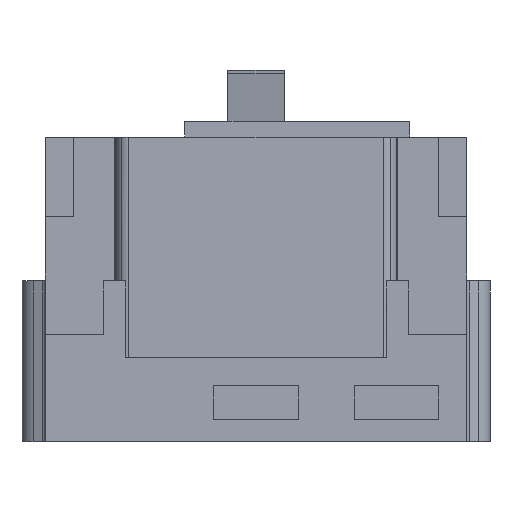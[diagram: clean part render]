
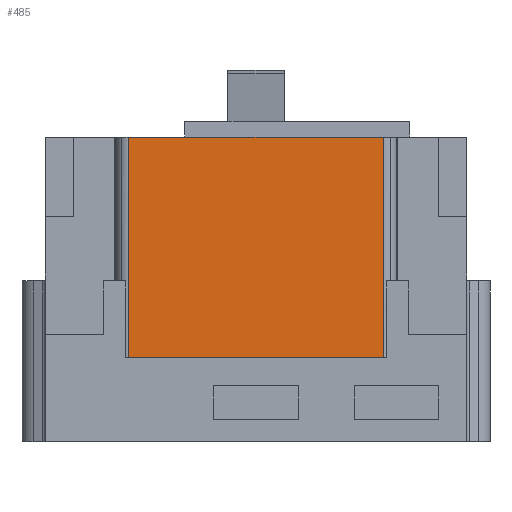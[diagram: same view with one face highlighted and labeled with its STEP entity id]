
A CAD part, front view. The second image highlights one B-rep face of the part: STEP entity #485.
In plain terms, the highlighted planar face has unit normal (0, -1, 0).
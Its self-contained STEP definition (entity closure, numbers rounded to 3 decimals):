
#25 = EDGE_CURVE ( 'NONE', #5311, #1992, #5377, .T. ) ;
#155 = PLANE ( 'NONE',  #4879 ) ;
#361 = VECTOR ( 'NONE', #744, 1000. ) ;
#479 = EDGE_CURVE ( 'NONE', #4587, #2323, #2901, .T. ) ;
#485 = ADVANCED_FACE ( 'NONE', ( #1798 ), #155, .T. ) ;
#498 = CARTESIAN_POINT ( 'NONE',  ( -44.5, -0.2, 45. ) ) ;
#578 = CARTESIAN_POINT ( 'NONE',  ( -180.5, -0.2, 162.85 ) ) ;
#668 = EDGE_CURVE ( 'NONE', #5311, #2323, #3729, .T. ) ;
#744 = DIRECTION ( 'NONE',  ( 0., 0., 1. ) ) ;
#994 = CARTESIAN_POINT ( 'NONE',  ( -180.5, -0.2, -71.493 ) ) ;
#1167 = CARTESIAN_POINT ( 'NONE',  ( -44.5, -0.2, -71.493 ) ) ;
#1254 = DIRECTION ( 'NONE',  ( -1., 0., 0. ) ) ;
#1421 = DIRECTION ( 'NONE',  ( 1., 0., 0. ) ) ;
#1798 = FACE_OUTER_BOUND ( 'NONE', #5223, .T. ) ;
#1992 = VERTEX_POINT ( 'NONE', #3102 ) ;
#2323 = VERTEX_POINT ( 'NONE', #3072 ) ;
#2354 = LINE ( 'NONE', #3882, #4466 ) ;
#2901 = LINE ( 'NONE', #578, #3034 ) ;
#3034 = VECTOR ( 'NONE', #3528, 1000. ) ;
#3056 = ORIENTED_EDGE ( 'NONE', *, *, #5326, .F. ) ;
#3072 = CARTESIAN_POINT ( 'NONE',  ( -44.5, -0.2, 162.85 ) ) ;
#3102 = CARTESIAN_POINT ( 'NONE',  ( -180.5, -0.2, 45. ) ) ;
#3528 = DIRECTION ( 'NONE',  ( 1., 0., 0. ) ) ;
#3546 = CARTESIAN_POINT ( 'NONE',  ( -44.5, -0.2, 45. ) ) ;
#3729 = LINE ( 'NONE', #1167, #361 ) ;
#3882 = CARTESIAN_POINT ( 'NONE',  ( -180.5, -0.2, -71.493 ) ) ;
#3930 = ORIENTED_EDGE ( 'NONE', *, *, #25, .F. ) ;
#3968 = DIRECTION ( 'NONE',  ( 0., -1., 0. ) ) ;
#4275 = VECTOR ( 'NONE', #1254, 1000. ) ;
#4301 = DIRECTION ( 'NONE',  ( 0., 0., 1. ) ) ;
#4466 = VECTOR ( 'NONE', #4301, 1000. ) ;
#4543 = ORIENTED_EDGE ( 'NONE', *, *, #479, .F. ) ;
#4587 = VERTEX_POINT ( 'NONE', #4789 ) ;
#4704 = ORIENTED_EDGE ( 'NONE', *, *, #668, .T. ) ;
#4789 = CARTESIAN_POINT ( 'NONE',  ( -180.5, -0.2, 162.85 ) ) ;
#4879 = AXIS2_PLACEMENT_3D ( 'NONE', #994, #3968, #1421 ) ;
#5223 = EDGE_LOOP ( 'NONE', ( #3056, #3930, #4704, #4543 ) ) ;
#5311 = VERTEX_POINT ( 'NONE', #498 ) ;
#5326 = EDGE_CURVE ( 'NONE', #1992, #4587, #2354, .T. ) ;
#5377 = LINE ( 'NONE', #3546, #4275 ) ;
